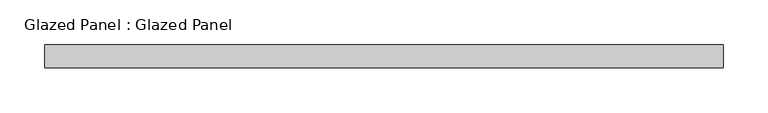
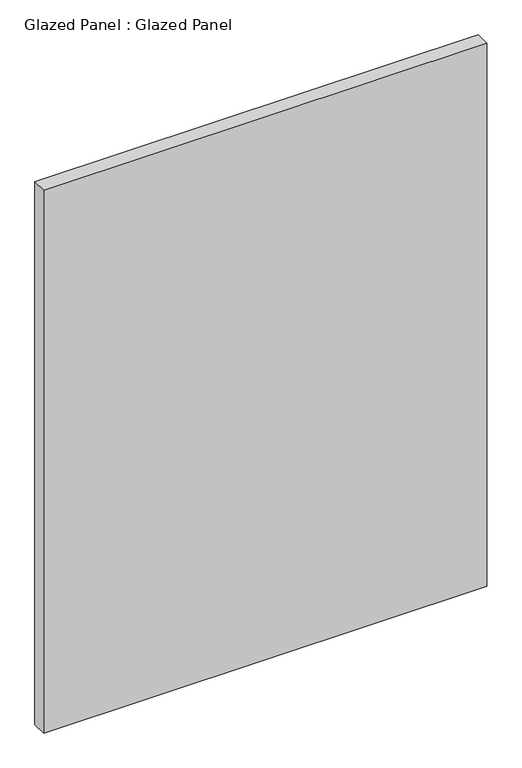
"""IFC4 building model written with IfcOpenShell, lengths in millimetres: plate geometry, Glazed Panel : Glazed Panel."""

from ifc_helpers import new_model, si_unit, origin, origin_with_axes, place, context, project, spatial, polyline, outline, extrude, source, transform, mapped, element, save


def glazed_panel_glazed_panel_29cf083e(model_context):
    return source(origin(), model_context, "Body", "SweptSolid", [
        extrude(outline(polyline([(377.6615198, 38.1), (-377.6615198, 38.1), (-377.6615198, 63.5), (377.6615198, 63.5), (377.6615198, 38.1)])), origin_with_axes(), (0.0, 0.0, 1.0), 977.8194535),
    ])


if __name__ == "__main__":
    model = new_model("IFC4")
    model_context = context("Model", 3, world=origin())
    ifc_project = project(units=[si_unit("LENGTHUNIT", "METRE", prefix="MILLI")], contexts=[model_context])
    site = spatial("IfcSite", under=ifc_project)
    building = spatial("IfcBuilding", under=site)
    placement = place(None, origin())
    glazed_panel_glazed_panel_shape = glazed_panel_glazed_panel_29cf083e(model_context)
    element("IfcPlate", 1, ObjectType="Glazed Panel : Glazed Panel", at=placement, inside=building, context=model_context, shape_type="MappedRepresentation", body=[
        mapped(glazed_panel_glazed_panel_shape, transform((0.0, 0.0, 0.0), x_axis=(1.0, 0.0, 0.0), y_axis=(0.0, 1.0, 0.0), z_axis=(0.0, 0.0, 1.0))),
    ])
    save(model, "model.ifc")
